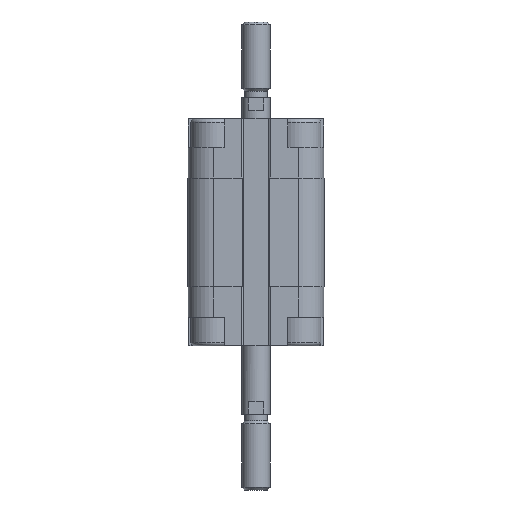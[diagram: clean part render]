
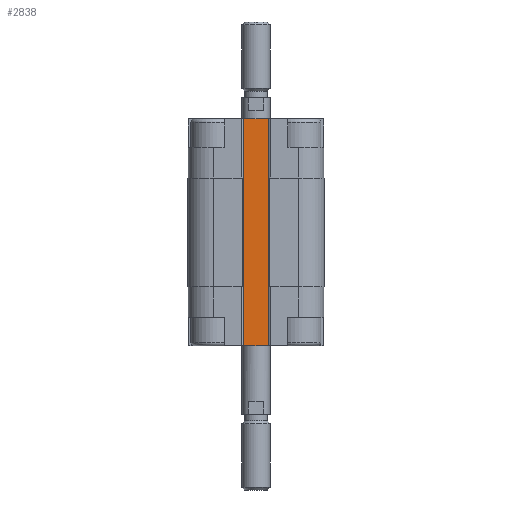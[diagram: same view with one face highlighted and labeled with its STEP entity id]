
A CAD part, front view. The second image highlights one B-rep face of the part: STEP entity #2838.
In plain terms, the highlighted planar face has unit normal (0, -1, 0).
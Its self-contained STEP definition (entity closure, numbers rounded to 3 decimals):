
#5 = EDGE_CURVE ( 'NONE', #11961, #17166, #7105, .T. ) ;
#321 = DIRECTION ( 'NONE',  ( 1., 0., 0. ) ) ;
#715 = DIRECTION ( 'NONE',  ( 0., 0., 1. ) ) ;
#781 = EDGE_CURVE ( 'NONE', #12736, #11961, #16808, .T. ) ;
#894 = ORIENTED_EDGE ( 'NONE', *, *, #9400, .F. ) ;
#1167 = DIRECTION ( 'NONE',  ( 1., 0., 0. ) ) ;
#1256 = DIRECTION ( 'NONE',  ( 0., 0., 1. ) ) ;
#1378 = EDGE_CURVE ( 'NONE', #16062, #16754, #3596, .T. ) ;
#1523 = DIRECTION ( 'NONE',  ( 0., 0., 1. ) ) ;
#1575 = CARTESIAN_POINT ( 'NONE',  ( 9., -9.5, -12.5 ) ) ;
#1595 = VERTEX_POINT ( 'NONE', #4390 ) ;
#1914 = EDGE_LOOP ( 'NONE', ( #2880, #10523, #9858, #894, #2438, #14812, #5400, #5794, #8283, #7353, #15868, #14626 ) ) ;
#2438 = ORIENTED_EDGE ( 'NONE', *, *, #4373, .T. ) ;
#2791 = CARTESIAN_POINT ( 'NONE',  ( -3.2, -9.5, -12.5 ) ) ;
#2838 = ADVANCED_FACE ( 'NONE', ( #3314 ), #11312, .T. ) ;
#2880 = ORIENTED_EDGE ( 'NONE', *, *, #12338, .F. ) ;
#3314 = FACE_OUTER_BOUND ( 'NONE', #1914, .T. ) ;
#3596 = LINE ( 'NONE', #9070, #14109 ) ;
#3623 = LINE ( 'NONE', #7747, #17660 ) ;
#3922 = DIRECTION ( 'NONE',  ( 0., 0., 1. ) ) ;
#4035 = VECTOR ( 'NONE', #6606, 1000. ) ;
#4274 = LINE ( 'NONE', #1575, #11802 ) ;
#4373 = EDGE_CURVE ( 'NONE', #12866, #8015, #5298, .T. ) ;
#4390 = CARTESIAN_POINT ( 'NONE',  ( -3., -9.5, -48. ) ) ;
#4519 = VECTOR ( 'NONE', #1523, 1000. ) ;
#4604 = CARTESIAN_POINT ( 'NONE',  ( 3., -9.5, 0. ) ) ;
#5298 = LINE ( 'NONE', #15984, #11710 ) ;
#5400 = ORIENTED_EDGE ( 'NONE', *, *, #6361, .T. ) ;
#5465 = VERTEX_POINT ( 'NONE', #6058 ) ;
#5658 = VECTOR ( 'NONE', #3922, 1000. ) ;
#5794 = ORIENTED_EDGE ( 'NONE', *, *, #12815, .T. ) ;
#6058 = CARTESIAN_POINT ( 'NONE',  ( 3.2, -9.5, -12.5 ) ) ;
#6199 = CARTESIAN_POINT ( 'NONE',  ( 3., -9.5, -35.5 ) ) ;
#6361 = EDGE_CURVE ( 'NONE', #1595, #8691, #13260, .T. ) ;
#6530 = CARTESIAN_POINT ( 'NONE',  ( -3.2, -9.5, -35.5 ) ) ;
#6601 = DIRECTION ( 'NONE',  ( 1., 0., 0. ) ) ;
#6606 = DIRECTION ( 'NONE',  ( 1., 0., 0. ) ) ;
#6829 = CARTESIAN_POINT ( 'NONE',  ( -3., -9.5, -48. ) ) ;
#6999 = CARTESIAN_POINT ( 'NONE',  ( -3.2, -9.5, -35.5 ) ) ;
#7105 = LINE ( 'NONE', #8716, #17390 ) ;
#7353 = ORIENTED_EDGE ( 'NONE', *, *, #9904, .T. ) ;
#7443 = DIRECTION ( 'NONE',  ( -1., 0., 0. ) ) ;
#7747 = CARTESIAN_POINT ( 'NONE',  ( -3., -9.5, 0. ) ) ;
#7853 = CARTESIAN_POINT ( 'NONE',  ( -3.2, -9.5, -35.5 ) ) ;
#7959 = VECTOR ( 'NONE', #13871, 1000. ) ;
#8015 = VERTEX_POINT ( 'NONE', #9859 ) ;
#8283 = ORIENTED_EDGE ( 'NONE', *, *, #11856, .T. ) ;
#8691 = VERTEX_POINT ( 'NONE', #15450 ) ;
#8716 = CARTESIAN_POINT ( 'NONE',  ( -3., -9.5, -12.5 ) ) ;
#8787 = CARTESIAN_POINT ( 'NONE',  ( -3., -9.5, -12.5 ) ) ;
#8899 = VERTEX_POINT ( 'NONE', #6199 ) ;
#9070 = CARTESIAN_POINT ( 'NONE',  ( 3., -9.5, -12.5 ) ) ;
#9400 = EDGE_CURVE ( 'NONE', #12866, #12736, #10665, .T. ) ;
#9858 = ORIENTED_EDGE ( 'NONE', *, *, #781, .F. ) ;
#9859 = CARTESIAN_POINT ( 'NONE',  ( -3., -9.5, -35.5 ) ) ;
#9904 = EDGE_CURVE ( 'NONE', #16120, #5465, #10990, .T. ) ;
#10241 = CARTESIAN_POINT ( 'NONE',  ( -3., -9.5, 0. ) ) ;
#10523 = ORIENTED_EDGE ( 'NONE', *, *, #5, .F. ) ;
#10665 = LINE ( 'NONE', #6530, #5658 ) ;
#10800 = VECTOR ( 'NONE', #1256, 1000. ) ;
#10990 = LINE ( 'NONE', #15040, #7959 ) ;
#11312 = PLANE ( 'NONE',  #14236 ) ;
#11436 = DIRECTION ( 'NONE',  ( 1., 0., 0. ) ) ;
#11710 = VECTOR ( 'NONE', #1167, 1000. ) ;
#11802 = VECTOR ( 'NONE', #321, 1000. ) ;
#11856 = EDGE_CURVE ( 'NONE', #8899, #16120, #13256, .T. ) ;
#11961 = VERTEX_POINT ( 'NONE', #13966 ) ;
#12004 = CARTESIAN_POINT ( 'NONE',  ( -3., -9.5, -48. ) ) ;
#12338 = EDGE_CURVE ( 'NONE', #17166, #16754, #3623, .T. ) ;
#12387 = LINE ( 'NONE', #6829, #4519 ) ;
#12736 = VERTEX_POINT ( 'NONE', #2791 ) ;
#12815 = EDGE_CURVE ( 'NONE', #8691, #8899, #16337, .T. ) ;
#12866 = VERTEX_POINT ( 'NONE', #6999 ) ;
#13231 = DIRECTION ( 'NONE',  ( 1., 0., 0. ) ) ;
#13256 = LINE ( 'NONE', #7853, #16210 ) ;
#13260 = LINE ( 'NONE', #12004, #4035 ) ;
#13562 = CARTESIAN_POINT ( 'NONE',  ( 3., -9.5, -48. ) ) ;
#13871 = DIRECTION ( 'NONE',  ( 0., 0., 1. ) ) ;
#13966 = CARTESIAN_POINT ( 'NONE',  ( -3., -9.5, -12.5 ) ) ;
#13969 = EDGE_CURVE ( 'NONE', #1595, #8015, #12387, .T. ) ;
#14043 = CARTESIAN_POINT ( 'NONE',  ( -3.2, -9.5, -12.5 ) ) ;
#14109 = VECTOR ( 'NONE', #715, 1000. ) ;
#14200 = DIRECTION ( 'NONE',  ( 0., 0., 1. ) ) ;
#14236 = AXIS2_PLACEMENT_3D ( 'NONE', #8787, #14278, #7443 ) ;
#14278 = DIRECTION ( 'NONE',  ( 0., -1., 0. ) ) ;
#14537 = CARTESIAN_POINT ( 'NONE',  ( 3., -9.5, -12.5 ) ) ;
#14626 = ORIENTED_EDGE ( 'NONE', *, *, #1378, .T. ) ;
#14812 = ORIENTED_EDGE ( 'NONE', *, *, #13969, .F. ) ;
#15040 = CARTESIAN_POINT ( 'NONE',  ( 3.2, -9.5, -35.5 ) ) ;
#15059 = CARTESIAN_POINT ( 'NONE',  ( 3.2, -9.5, -35.5 ) ) ;
#15450 = CARTESIAN_POINT ( 'NONE',  ( 3., -9.5, -48. ) ) ;
#15868 = ORIENTED_EDGE ( 'NONE', *, *, #16099, .F. ) ;
#15984 = CARTESIAN_POINT ( 'NONE',  ( -3.2, -9.5, -35.5 ) ) ;
#16062 = VERTEX_POINT ( 'NONE', #14537 ) ;
#16099 = EDGE_CURVE ( 'NONE', #16062, #5465, #4274, .T. ) ;
#16120 = VERTEX_POINT ( 'NONE', #15059 ) ;
#16210 = VECTOR ( 'NONE', #6601, 1000. ) ;
#16337 = LINE ( 'NONE', #13562, #10800 ) ;
#16754 = VERTEX_POINT ( 'NONE', #4604 ) ;
#16808 = LINE ( 'NONE', #14043, #17003 ) ;
#17003 = VECTOR ( 'NONE', #11436, 1000. ) ;
#17166 = VERTEX_POINT ( 'NONE', #10241 ) ;
#17390 = VECTOR ( 'NONE', #14200, 1000. ) ;
#17660 = VECTOR ( 'NONE', #13231, 1000. ) ;
